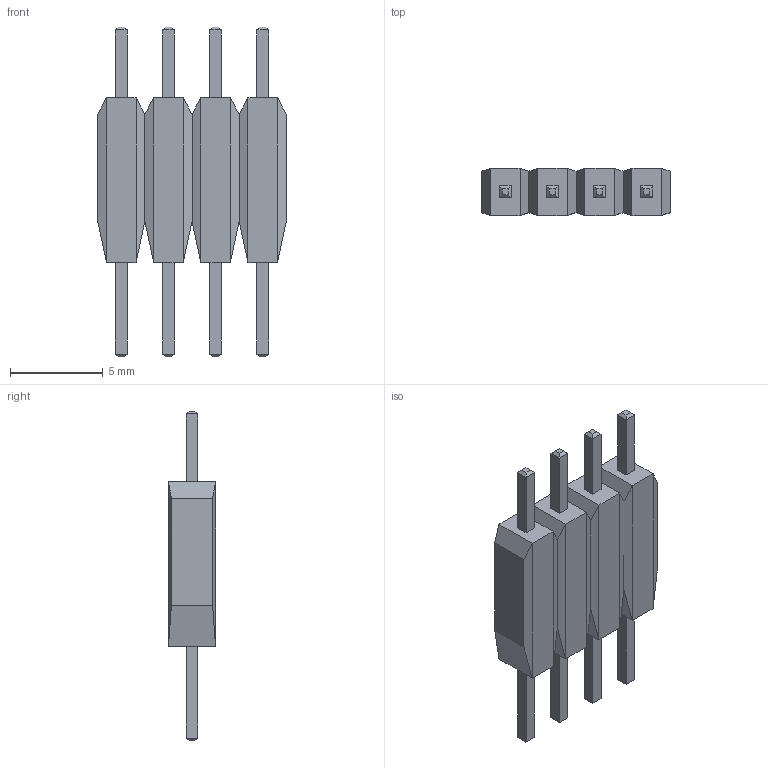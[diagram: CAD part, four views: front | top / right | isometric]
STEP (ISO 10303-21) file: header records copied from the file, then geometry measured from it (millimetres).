
FILE_DESCRIPTION(('STEP AP214'),'1');
FILE_NAME('CON4_1X4_TU_TSW','2025-07-21T11:09:13',(''),(''),'','','');
FILE_SCHEMA(('AUTOMOTIVE_DESIGN'));
Length unit declared in the file: millimetre
Products named in the file (1): product
Bounding box: 10.16 x 2.54 x 17.78 mm (x, y, z)
Volume: 224.4 mm3; surface area: 386.9 mm2
Topology: 9 solids, 9 shells, 130 faces, 260 edges, 148 vertices
Faces by surface type: plane 130
Entity records: 3218 total; most frequent: DIRECTION 522, ORIENTED_EDGE 520, CARTESIAN_POINT 279, EDGE_CURVE 260, LINE 260, VECTOR 260, VERTEX_POINT 148, AXIS2_PLACEMENT_3D 131
